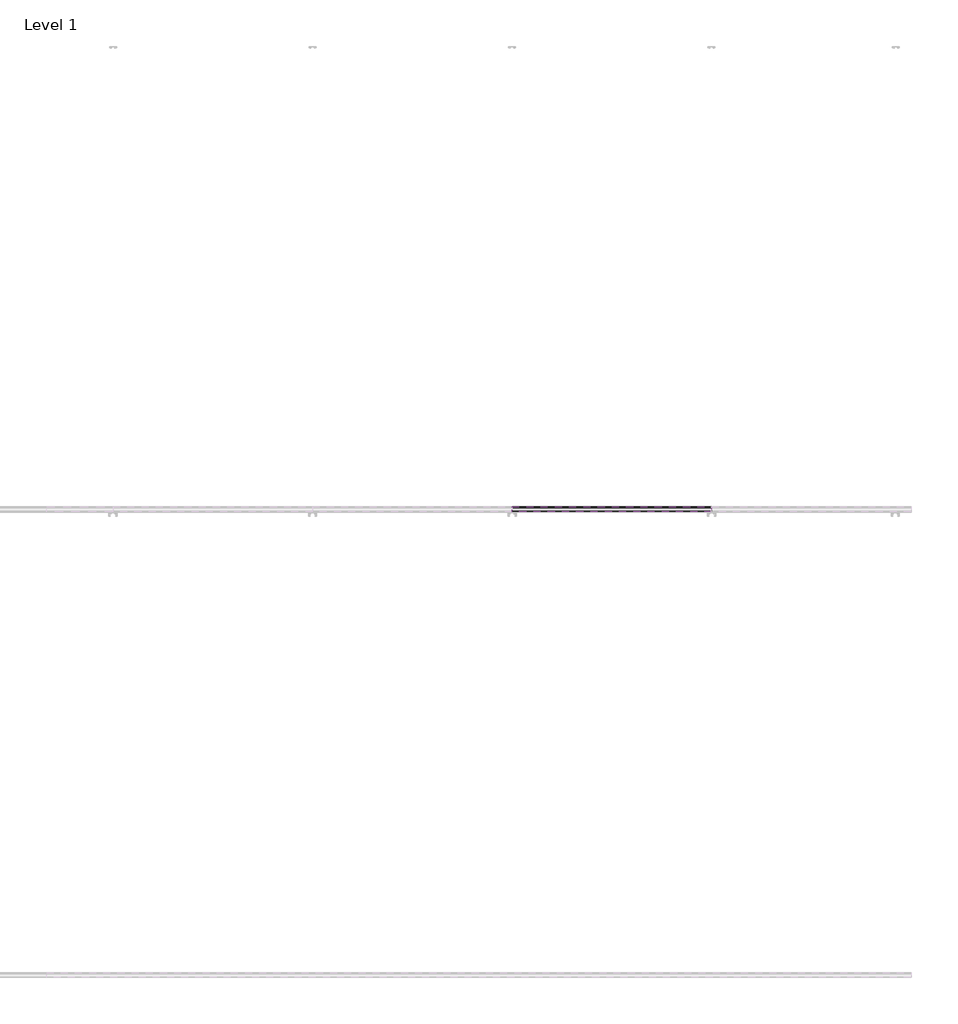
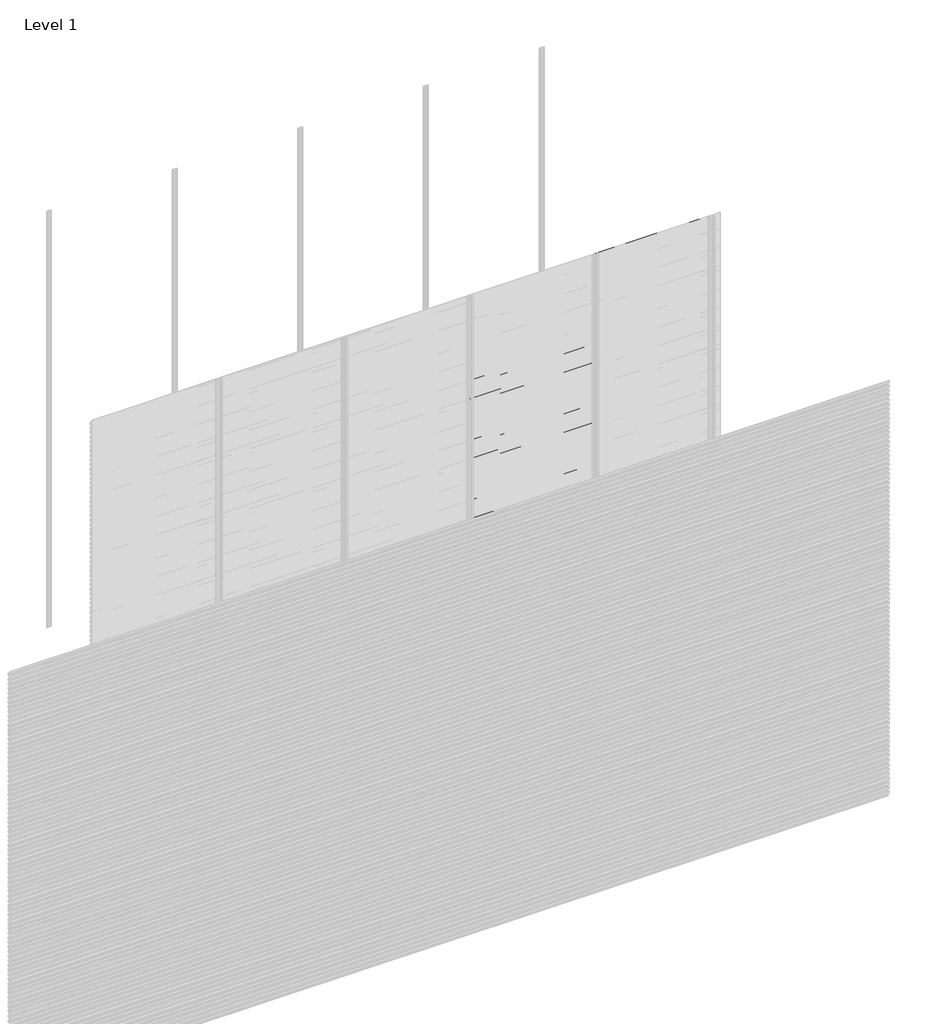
# One storey, part 86 of 96: 77 proxies.
"""IFC4 building model written with IfcOpenShell, lengths in millimetres."""

from ifc_helpers import new_model, si_unit, frame, origin, place, context, project, spatial, polyline, outline, extrude, element, save

model = new_model("IFC4")

# Units and contexts
model_context = context("Model", 3, world=origin())
ifc_project = project(units=[si_unit("LENGTHUNIT", "METRE", prefix="MILLI")], contexts=[model_context])

# Site, building, storey
site = spatial("IfcSite", under=ifc_project)
building = spatial("IfcBuilding", under=site)
storey = spatial("IfcBuildingStorey", under=building, Name="Level 1", Elevation=0.0)

# Proxies
placement = place(None, origin())
element("IfcBuildingElementProxy", 1, Name="Wall Sweeps", at=placement, inside=storey, context=model_context, shape_type="SweptSolid", body=[
    extrude(outline(polyline([(-5977.6, 2438.9655033), (-5977.6, 2424.6779188), (-5982.4114965, 2421.9), (-5982.4114965, 2423.1701706), (-5978.85, 2425.2264016), (-5978.85, 2438.2437382), (-5998.0, 2449.3000799), (-5998.0, 2464.2), (-5996.75, 2464.2), (-5996.75, 2450.0217609), (-5977.6, 2438.9655033)])), frame((4285.7142857, 0.0, 0.0), z_axis=(1.0, 0.0, 0.0), x_axis=(0.0, 1.0, 0.0)), (0.0, 0.0, 1.0), 857.1428571),
])
element("IfcBuildingElementProxy", 2, Name="Wall Sweeps", at=placement, inside=storey, context=model_context, shape_type="SweptSolid", body=[
    extrude(outline(polyline([(-5977.6, 2405.6655033), (-5977.6, 2391.3779188), (-5982.4114965, 2388.6), (-5982.4114965, 2389.8701706), (-5978.85, 2391.9264016), (-5978.85, 2404.9437382), (-5998.0, 2416.0000799), (-5998.0, 2430.9), (-5996.75, 2430.9), (-5996.75, 2416.7217609), (-5977.6, 2405.6655033)])), frame((4285.7142857, 0.0, 0.0), z_axis=(1.0, 0.0, 0.0), x_axis=(0.0, 1.0, 0.0)), (0.0, 0.0, 1.0), 857.1428571),
])
element("IfcBuildingElementProxy", 3, Name="Wall Sweeps", at=placement, inside=storey, context=model_context, shape_type="SweptSolid", body=[
    extrude(outline(polyline([(-5977.6, 2372.3655033), (-5977.6, 2358.0779188), (-5982.4114965, 2355.3), (-5982.4114965, 2356.5701706), (-5978.85, 2358.6264016), (-5978.85, 2371.6437382), (-5998.0, 2382.7000799), (-5998.0, 2397.6), (-5996.75, 2397.6), (-5996.75, 2383.4217609), (-5977.6, 2372.3655033)])), frame((4285.7142857, 0.0, 0.0), z_axis=(1.0, 0.0, 0.0), x_axis=(0.0, 1.0, 0.0)), (0.0, 0.0, 1.0), 857.1428571),
])
element("IfcBuildingElementProxy", 4, Name="Wall Sweeps", at=placement, inside=storey, context=model_context, shape_type="SweptSolid", body=[
    extrude(outline(polyline([(-5977.6, 2339.0655033), (-5977.6, 2324.7779188), (-5982.4114965, 2322.0), (-5982.4114965, 2323.2701706), (-5978.85, 2325.3264016), (-5978.85, 2338.3437382), (-5998.0, 2349.4000799), (-5998.0, 2364.3), (-5996.75, 2364.3), (-5996.75, 2350.1217609), (-5977.6, 2339.0655033)])), frame((4285.7142857, 0.0, 0.0), z_axis=(1.0, 0.0, 0.0), x_axis=(0.0, 1.0, 0.0)), (0.0, 0.0, 1.0), 857.1428571),
])
element("IfcBuildingElementProxy", 5, Name="Wall Sweeps", at=placement, inside=storey, context=model_context, shape_type="SweptSolid", body=[
    extrude(outline(polyline([(-5977.6, 2305.7655033), (-5977.6, 2291.4779188), (-5982.4114965, 2288.7), (-5982.4114965, 2289.9701706), (-5978.85, 2292.0264016), (-5978.85, 2305.0437382), (-5998.0, 2316.1000799), (-5998.0, 2331.0), (-5996.75, 2331.0), (-5996.75, 2316.8217609), (-5977.6, 2305.7655033)])), frame((4285.7142857, 0.0, 0.0), z_axis=(1.0, 0.0, 0.0), x_axis=(0.0, 1.0, 0.0)), (0.0, 0.0, 1.0), 857.1428571),
])
element("IfcBuildingElementProxy", 6, Name="Wall Sweeps", at=placement, inside=storey, context=model_context, shape_type="SweptSolid", body=[
    extrude(outline(polyline([(-5977.6, 2272.4655033), (-5977.6, 2258.1779188), (-5982.4114965, 2255.4), (-5982.4114965, 2256.6701706), (-5978.85, 2258.7264016), (-5978.85, 2271.7437382), (-5998.0, 2282.8000799), (-5998.0, 2297.7), (-5996.75, 2297.7), (-5996.75, 2283.5217609), (-5977.6, 2272.4655033)])), frame((4285.7142857, 0.0, 0.0), z_axis=(1.0, 0.0, 0.0), x_axis=(0.0, 1.0, 0.0)), (0.0, 0.0, 1.0), 857.1428571),
])
element("IfcBuildingElementProxy", 7, Name="Wall Sweeps", at=placement, inside=storey, context=model_context, shape_type="SweptSolid", body=[
    extrude(outline(polyline([(-5977.6, 2239.1655033), (-5977.6, 2224.8779188), (-5982.4114965, 2222.1), (-5982.4114965, 2223.3701706), (-5978.85, 2225.4264016), (-5978.85, 2238.4437382), (-5998.0, 2249.5000799), (-5998.0, 2264.4), (-5996.75, 2264.4), (-5996.75, 2250.2217609), (-5977.6, 2239.1655033)])), frame((4285.7142857, 0.0, 0.0), z_axis=(1.0, 0.0, 0.0), x_axis=(0.0, 1.0, 0.0)), (0.0, 0.0, 1.0), 857.1428571),
])
element("IfcBuildingElementProxy", 8, Name="Wall Sweeps", at=placement, inside=storey, context=model_context, shape_type="SweptSolid", body=[
    extrude(outline(polyline([(-5977.6, 2205.8655033), (-5977.6, 2191.5779188), (-5982.4114965, 2188.8), (-5982.4114965, 2190.0701706), (-5978.85, 2192.1264016), (-5978.85, 2205.1437382), (-5998.0, 2216.2000799), (-5998.0, 2231.1), (-5996.75, 2231.1), (-5996.75, 2216.9217609), (-5977.6, 2205.8655033)])), frame((4285.7142857, 0.0, 0.0), z_axis=(1.0, 0.0, 0.0), x_axis=(0.0, 1.0, 0.0)), (0.0, 0.0, 1.0), 857.1428571),
])
element("IfcBuildingElementProxy", 9, Name="Wall Sweeps", at=placement, inside=storey, context=model_context, shape_type="SweptSolid", body=[
    extrude(outline(polyline([(-5977.6, 2172.5655033), (-5977.6, 2158.2779188), (-5982.4114965, 2155.5), (-5982.4114965, 2156.7701706), (-5978.85, 2158.8264016), (-5978.85, 2171.8437382), (-5998.0, 2182.9000799), (-5998.0, 2197.8), (-5996.75, 2197.8), (-5996.75, 2183.6217609), (-5977.6, 2172.5655033)])), frame((4285.7142857, 0.0, 0.0), z_axis=(1.0, 0.0, 0.0), x_axis=(0.0, 1.0, 0.0)), (0.0, 0.0, 1.0), 857.1428571),
])
element("IfcBuildingElementProxy", 10, Name="Wall Sweeps", at=placement, inside=storey, context=model_context, shape_type="SweptSolid", body=[
    extrude(outline(polyline([(-5977.6, 2139.2655033), (-5977.6, 2124.9779188), (-5982.4114965, 2122.2), (-5982.4114965, 2123.4701706), (-5978.85, 2125.5264016), (-5978.85, 2138.5437382), (-5998.0, 2149.6000799), (-5998.0, 2164.5), (-5996.75, 2164.5), (-5996.75, 2150.3217609), (-5977.6, 2139.2655033)])), frame((4285.7142857, 0.0, 0.0), z_axis=(1.0, 0.0, 0.0), x_axis=(0.0, 1.0, 0.0)), (0.0, 0.0, 1.0), 857.1428571),
])
element("IfcBuildingElementProxy", 11, Name="Wall Sweeps", at=placement, inside=storey, context=model_context, shape_type="SweptSolid", body=[
    extrude(outline(polyline([(-5977.6, 2105.9655033), (-5977.6, 2091.6779188), (-5982.4114965, 2088.9), (-5982.4114965, 2090.1701706), (-5978.85, 2092.2264016), (-5978.85, 2105.2437382), (-5998.0, 2116.3000799), (-5998.0, 2131.2), (-5996.75, 2131.2), (-5996.75, 2117.0217609), (-5977.6, 2105.9655033)])), frame((4285.7142857, 0.0, 0.0), z_axis=(1.0, 0.0, 0.0), x_axis=(0.0, 1.0, 0.0)), (0.0, 0.0, 1.0), 857.1428571),
])
element("IfcBuildingElementProxy", 12, Name="Wall Sweeps", at=placement, inside=storey, context=model_context, shape_type="SweptSolid", body=[
    extrude(outline(polyline([(-5977.6, 2072.6655033), (-5977.6, 2058.3779188), (-5982.4114965, 2055.6), (-5982.4114965, 2056.8701706), (-5978.85, 2058.9264016), (-5978.85, 2071.9437382), (-5998.0, 2083.0000799), (-5998.0, 2097.9), (-5996.75, 2097.9), (-5996.75, 2083.7217609), (-5977.6, 2072.6655033)])), frame((4285.7142857, 0.0, 0.0), z_axis=(1.0, 0.0, 0.0), x_axis=(0.0, 1.0, 0.0)), (0.0, 0.0, 1.0), 857.1428571),
])
element("IfcBuildingElementProxy", 13, Name="Wall Sweeps", at=placement, inside=storey, context=model_context, shape_type="SweptSolid", body=[
    extrude(outline(polyline([(-5977.6, 2039.3655033), (-5977.6, 2025.0779188), (-5982.4114965, 2022.3), (-5982.4114965, 2023.5701706), (-5978.85, 2025.6264016), (-5978.85, 2038.6437382), (-5998.0, 2049.7000799), (-5998.0, 2064.6), (-5996.75, 2064.6), (-5996.75, 2050.4217609), (-5977.6, 2039.3655033)])), frame((4285.7142857, 0.0, 0.0), z_axis=(1.0, 0.0, 0.0), x_axis=(0.0, 1.0, 0.0)), (0.0, 0.0, 1.0), 857.1428571),
])
element("IfcBuildingElementProxy", 14, Name="Wall Sweeps", at=placement, inside=storey, context=model_context, shape_type="SweptSolid", body=[
    extrude(outline(polyline([(-5977.6, 2006.0655033), (-5977.6, 1991.7779188), (-5982.4114965, 1989.0), (-5982.4114965, 1990.2701706), (-5978.85, 1992.3264016), (-5978.85, 2005.3437382), (-5998.0, 2016.4000799), (-5998.0, 2031.3), (-5996.75, 2031.3), (-5996.75, 2017.1217609), (-5977.6, 2006.0655033)])), frame((4285.7142857, 0.0, 0.0), z_axis=(1.0, 0.0, 0.0), x_axis=(0.0, 1.0, 0.0)), (0.0, 0.0, 1.0), 857.1428571),
])
element("IfcBuildingElementProxy", 15, Name="Wall Sweeps", at=placement, inside=storey, context=model_context, shape_type="SweptSolid", body=[
    extrude(outline(polyline([(-5977.6, 1972.7655033), (-5977.6, 1958.4779188), (-5982.4114965, 1955.7), (-5982.4114965, 1956.9701706), (-5978.85, 1959.0264016), (-5978.85, 1972.0437382), (-5998.0, 1983.1000799), (-5998.0, 1998.0), (-5996.75, 1998.0), (-5996.75, 1983.8217609), (-5977.6, 1972.7655033)])), frame((4285.7142857, 0.0, 0.0), z_axis=(1.0, 0.0, 0.0), x_axis=(0.0, 1.0, 0.0)), (0.0, 0.0, 1.0), 857.1428571),
])
element("IfcBuildingElementProxy", 16, Name="Wall Sweeps", at=placement, inside=storey, context=model_context, shape_type="SweptSolid", body=[
    extrude(outline(polyline([(-5977.6, 1939.4655033), (-5977.6, 1925.1779188), (-5982.4114965, 1922.4), (-5982.4114965, 1923.6701706), (-5978.85, 1925.7264016), (-5978.85, 1938.7437382), (-5998.0, 1949.8000799), (-5998.0, 1964.7), (-5996.75, 1964.7), (-5996.75, 1950.5217609), (-5977.6, 1939.4655033)])), frame((4285.7142857, 0.0, 0.0), z_axis=(1.0, 0.0, 0.0), x_axis=(0.0, 1.0, 0.0)), (0.0, 0.0, 1.0), 857.1428571),
])
element("IfcBuildingElementProxy", 17, Name="Wall Sweeps", at=placement, inside=storey, context=model_context, shape_type="SweptSolid", body=[
    extrude(outline(polyline([(-5977.6, 1906.1655033), (-5977.6, 1891.8779188), (-5982.4114965, 1889.1), (-5982.4114965, 1890.3701706), (-5978.85, 1892.4264016), (-5978.85, 1905.4437382), (-5998.0, 1916.5000799), (-5998.0, 1931.4), (-5996.75, 1931.4), (-5996.75, 1917.2217609), (-5977.6, 1906.1655033)])), frame((4285.7142857, 0.0, 0.0), z_axis=(1.0, 0.0, 0.0), x_axis=(0.0, 1.0, 0.0)), (0.0, 0.0, 1.0), 857.1428571),
])
element("IfcBuildingElementProxy", 18, Name="Wall Sweeps", at=placement, inside=storey, context=model_context, shape_type="SweptSolid", body=[
    extrude(outline(polyline([(-5977.6, 1872.8655033), (-5977.6, 1858.5779188), (-5982.4114965, 1855.8), (-5982.4114965, 1857.0701706), (-5978.85, 1859.1264016), (-5978.85, 1872.1437382), (-5998.0, 1883.2000799), (-5998.0, 1898.1), (-5996.75, 1898.1), (-5996.75, 1883.9217609), (-5977.6, 1872.8655033)])), frame((4285.7142857, 0.0, 0.0), z_axis=(1.0, 0.0, 0.0), x_axis=(0.0, 1.0, 0.0)), (0.0, 0.0, 1.0), 857.1428571),
])
element("IfcBuildingElementProxy", 19, Name="Wall Sweeps", at=placement, inside=storey, context=model_context, shape_type="SweptSolid", body=[
    extrude(outline(polyline([(-5977.6, 1839.5655033), (-5977.6, 1825.2779188), (-5982.4114965, 1822.5), (-5982.4114965, 1823.7701706), (-5978.85, 1825.8264016), (-5978.85, 1838.8437382), (-5998.0, 1849.9000799), (-5998.0, 1864.8), (-5996.75, 1864.8), (-5996.75, 1850.6217609), (-5977.6, 1839.5655033)])), frame((4285.7142857, 0.0, 0.0), z_axis=(1.0, 0.0, 0.0), x_axis=(0.0, 1.0, 0.0)), (0.0, 0.0, 1.0), 857.1428571),
])
element("IfcBuildingElementProxy", 20, Name="Wall Sweeps", at=placement, inside=storey, context=model_context, shape_type="SweptSolid", body=[
    extrude(outline(polyline([(-5977.6, 1806.2655033), (-5977.6, 1791.9779188), (-5982.4114965, 1789.2), (-5982.4114965, 1790.4701706), (-5978.85, 1792.5264016), (-5978.85, 1805.5437382), (-5998.0, 1816.6000799), (-5998.0, 1831.5), (-5996.75, 1831.5), (-5996.75, 1817.3217609), (-5977.6, 1806.2655033)])), frame((4285.7142857, 0.0, 0.0), z_axis=(1.0, 0.0, 0.0), x_axis=(0.0, 1.0, 0.0)), (0.0, 0.0, 1.0), 857.1428571),
])
element("IfcBuildingElementProxy", 21, Name="Wall Sweeps", at=placement, inside=storey, context=model_context, shape_type="SweptSolid", body=[
    extrude(outline(polyline([(-5977.6, 1772.9655033), (-5977.6, 1758.6779188), (-5982.4114965, 1755.9), (-5982.4114965, 1757.1701706), (-5978.85, 1759.2264016), (-5978.85, 1772.2437382), (-5998.0, 1783.3000799), (-5998.0, 1798.2), (-5996.75, 1798.2), (-5996.75, 1784.0217609), (-5977.6, 1772.9655033)])), frame((4285.7142857, 0.0, 0.0), z_axis=(1.0, 0.0, 0.0), x_axis=(0.0, 1.0, 0.0)), (0.0, 0.0, 1.0), 857.1428571),
])
element("IfcBuildingElementProxy", 22, Name="Wall Sweeps", at=placement, inside=storey, context=model_context, shape_type="SweptSolid", body=[
    extrude(outline(polyline([(-5977.6, 1739.6655033), (-5977.6, 1725.3779188), (-5982.4114965, 1722.6), (-5982.4114965, 1723.8701706), (-5978.85, 1725.9264016), (-5978.85, 1738.9437382), (-5998.0, 1750.0000799), (-5998.0, 1764.9), (-5996.75, 1764.9), (-5996.75, 1750.7217609), (-5977.6, 1739.6655033)])), frame((4285.7142857, 0.0, 0.0), z_axis=(1.0, 0.0, 0.0), x_axis=(0.0, 1.0, 0.0)), (0.0, 0.0, 1.0), 857.1428571),
])
element("IfcBuildingElementProxy", 23, Name="Wall Sweeps", at=placement, inside=storey, context=model_context, shape_type="SweptSolid", body=[
    extrude(outline(polyline([(-5977.6, 1706.3655033), (-5977.6, 1692.0779188), (-5982.4114965, 1689.3), (-5982.4114965, 1690.5701706), (-5978.85, 1692.6264016), (-5978.85, 1705.6437382), (-5998.0, 1716.7000799), (-5998.0, 1731.6), (-5996.75, 1731.6), (-5996.75, 1717.4217609), (-5977.6, 1706.3655033)])), frame((4285.7142857, 0.0, 0.0), z_axis=(1.0, 0.0, 0.0), x_axis=(0.0, 1.0, 0.0)), (0.0, 0.0, 1.0), 857.1428571),
])
element("IfcBuildingElementProxy", 24, Name="Wall Sweeps", at=placement, inside=storey, context=model_context, shape_type="SweptSolid", body=[
    extrude(outline(polyline([(-5977.6, 1673.0655033), (-5977.6, 1658.7779188), (-5982.4114965, 1656.0), (-5982.4114965, 1657.2701706), (-5978.85, 1659.3264016), (-5978.85, 1672.3437382), (-5998.0, 1683.4000799), (-5998.0, 1698.3), (-5996.75, 1698.3), (-5996.75, 1684.1217609), (-5977.6, 1673.0655033)])), frame((4285.7142857, 0.0, 0.0), z_axis=(1.0, 0.0, 0.0), x_axis=(0.0, 1.0, 0.0)), (0.0, 0.0, 1.0), 857.1428571),
])
element("IfcBuildingElementProxy", 25, Name="Wall Sweeps", at=placement, inside=storey, context=model_context, shape_type="SweptSolid", body=[
    extrude(outline(polyline([(-5977.6, 1639.7655033), (-5977.6, 1625.4779188), (-5982.4114965, 1622.7), (-5982.4114965, 1623.9701706), (-5978.85, 1626.0264016), (-5978.85, 1639.0437382), (-5998.0, 1650.1000799), (-5998.0, 1665.0), (-5996.75, 1665.0), (-5996.75, 1650.8217609), (-5977.6, 1639.7655033)])), frame((4285.7142857, 0.0, 0.0), z_axis=(1.0, 0.0, 0.0), x_axis=(0.0, 1.0, 0.0)), (0.0, 0.0, 1.0), 857.1428571),
])
element("IfcBuildingElementProxy", 26, Name="Wall Sweeps", at=placement, inside=storey, context=model_context, shape_type="SweptSolid", body=[
    extrude(outline(polyline([(-5977.6, 1606.4655033), (-5977.6, 1592.1779188), (-5982.4114965, 1589.4), (-5982.4114965, 1590.6701706), (-5978.85, 1592.7264016), (-5978.85, 1605.7437382), (-5998.0, 1616.8000799), (-5998.0, 1631.7), (-5996.75, 1631.7), (-5996.75, 1617.5217609), (-5977.6, 1606.4655033)])), frame((4285.7142857, 0.0, 0.0), z_axis=(1.0, 0.0, 0.0), x_axis=(0.0, 1.0, 0.0)), (0.0, 0.0, 1.0), 857.1428571),
])
element("IfcBuildingElementProxy", 27, Name="Wall Sweeps", at=placement, inside=storey, context=model_context, shape_type="SweptSolid", body=[
    extrude(outline(polyline([(-5977.6, 1573.1655033), (-5977.6, 1558.8779188), (-5982.4114965, 1556.1), (-5982.4114965, 1557.3701706), (-5978.85, 1559.4264016), (-5978.85, 1572.4437382), (-5998.0, 1583.5000799), (-5998.0, 1598.4), (-5996.75, 1598.4), (-5996.75, 1584.2217609), (-5977.6, 1573.1655033)])), frame((4285.7142857, 0.0, 0.0), z_axis=(1.0, 0.0, 0.0), x_axis=(0.0, 1.0, 0.0)), (0.0, 0.0, 1.0), 857.1428571),
])
element("IfcBuildingElementProxy", 28, Name="Wall Sweeps", at=placement, inside=storey, context=model_context, shape_type="SweptSolid", body=[
    extrude(outline(polyline([(-5977.6, 1539.8655033), (-5977.6, 1525.5779188), (-5982.4114965, 1522.8), (-5982.4114965, 1524.0701706), (-5978.85, 1526.1264016), (-5978.85, 1539.1437382), (-5998.0, 1550.2000799), (-5998.0, 1565.1), (-5996.75, 1565.1), (-5996.75, 1550.9217609), (-5977.6, 1539.8655033)])), frame((4285.7142857, 0.0, 0.0), z_axis=(1.0, 0.0, 0.0), x_axis=(0.0, 1.0, 0.0)), (0.0, 0.0, 1.0), 857.1428571),
])
element("IfcBuildingElementProxy", 29, Name="Wall Sweeps", at=placement, inside=storey, context=model_context, shape_type="SweptSolid", body=[
    extrude(outline(polyline([(-5977.6, 1506.5655033), (-5977.6, 1492.2779188), (-5982.4114965, 1489.5), (-5982.4114965, 1490.7701706), (-5978.85, 1492.8264016), (-5978.85, 1505.8437382), (-5998.0, 1516.9000799), (-5998.0, 1531.8), (-5996.75, 1531.8), (-5996.75, 1517.6217609), (-5977.6, 1506.5655033)])), frame((4285.7142857, 0.0, 0.0), z_axis=(1.0, 0.0, 0.0), x_axis=(0.0, 1.0, 0.0)), (0.0, 0.0, 1.0), 857.1428571),
])
element("IfcBuildingElementProxy", 30, Name="Wall Sweeps", at=placement, inside=storey, context=model_context, shape_type="SweptSolid", body=[
    extrude(outline(polyline([(-5977.6, 1473.2655033), (-5977.6, 1458.9779188), (-5982.4114965, 1456.2), (-5982.4114965, 1457.4701706), (-5978.85, 1459.5264016), (-5978.85, 1472.5437382), (-5998.0, 1483.6000799), (-5998.0, 1498.5), (-5996.75, 1498.5), (-5996.75, 1484.3217609), (-5977.6, 1473.2655033)])), frame((4285.7142857, 0.0, 0.0), z_axis=(1.0, 0.0, 0.0), x_axis=(0.0, 1.0, 0.0)), (0.0, 0.0, 1.0), 857.1428571),
])
element("IfcBuildingElementProxy", 31, Name="Wall Sweeps", at=placement, inside=storey, context=model_context, shape_type="SweptSolid", body=[
    extrude(outline(polyline([(-5977.6, 1439.9655033), (-5977.6, 1425.6779188), (-5982.4114965, 1422.9), (-5982.4114965, 1424.1701706), (-5978.85, 1426.2264016), (-5978.85, 1439.2437382), (-5998.0, 1450.3000799), (-5998.0, 1465.2), (-5996.75, 1465.2), (-5996.75, 1451.0217609), (-5977.6, 1439.9655033)])), frame((4285.7142857, 0.0, 0.0), z_axis=(1.0, 0.0, 0.0), x_axis=(0.0, 1.0, 0.0)), (0.0, 0.0, 1.0), 857.1428571),
])
element("IfcBuildingElementProxy", 32, Name="Wall Sweeps", at=placement, inside=storey, context=model_context, shape_type="SweptSolid", body=[
    extrude(outline(polyline([(-5977.6, 1406.6655033), (-5977.6, 1392.3779188), (-5982.4114965, 1389.6), (-5982.4114965, 1390.8701706), (-5978.85, 1392.9264016), (-5978.85, 1405.9437382), (-5998.0, 1417.0000799), (-5998.0, 1431.9), (-5996.75, 1431.9), (-5996.75, 1417.7217609), (-5977.6, 1406.6655033)])), frame((4285.7142857, 0.0, 0.0), z_axis=(1.0, 0.0, 0.0), x_axis=(0.0, 1.0, 0.0)), (0.0, 0.0, 1.0), 857.1428571),
])
element("IfcBuildingElementProxy", 33, Name="Wall Sweeps", at=placement, inside=storey, context=model_context, shape_type="SweptSolid", body=[
    extrude(outline(polyline([(-5977.6, 1373.3655033), (-5977.6, 1359.0779188), (-5982.4114965, 1356.3), (-5982.4114965, 1357.5701706), (-5978.85, 1359.6264016), (-5978.85, 1372.6437382), (-5998.0, 1383.7000799), (-5998.0, 1398.6), (-5996.75, 1398.6), (-5996.75, 1384.4217609), (-5977.6, 1373.3655033)])), frame((4285.7142857, 0.0, 0.0), z_axis=(1.0, 0.0, 0.0), x_axis=(0.0, 1.0, 0.0)), (0.0, 0.0, 1.0), 857.1428571),
])
element("IfcBuildingElementProxy", 34, Name="Wall Sweeps", at=placement, inside=storey, context=model_context, shape_type="SweptSolid", body=[
    extrude(outline(polyline([(-5977.6, 1340.0655033), (-5977.6, 1325.7779188), (-5982.4114965, 1323.0), (-5982.4114965, 1324.2701706), (-5978.85, 1326.3264016), (-5978.85, 1339.3437382), (-5998.0, 1350.4000799), (-5998.0, 1365.3), (-5996.75, 1365.3), (-5996.75, 1351.1217609), (-5977.6, 1340.0655033)])), frame((4285.7142857, 0.0, 0.0), z_axis=(1.0, 0.0, 0.0), x_axis=(0.0, 1.0, 0.0)), (0.0, 0.0, 1.0), 857.1428571),
])
element("IfcBuildingElementProxy", 35, Name="Wall Sweeps", at=placement, inside=storey, context=model_context, shape_type="SweptSolid", body=[
    extrude(outline(polyline([(-5977.6, 1306.7655033), (-5977.6, 1292.4779188), (-5982.4114965, 1289.7), (-5982.4114965, 1290.9701706), (-5978.85, 1293.0264016), (-5978.85, 1306.0437382), (-5998.0, 1317.1000799), (-5998.0, 1332.0), (-5996.75, 1332.0), (-5996.75, 1317.8217609), (-5977.6, 1306.7655033)])), frame((4285.7142857, 0.0, 0.0), z_axis=(1.0, 0.0, 0.0), x_axis=(0.0, 1.0, 0.0)), (0.0, 0.0, 1.0), 857.1428571),
])
element("IfcBuildingElementProxy", 36, Name="Wall Sweeps", at=placement, inside=storey, context=model_context, shape_type="SweptSolid", body=[
    extrude(outline(polyline([(-5977.6, 1273.4655033), (-5977.6, 1259.1779188), (-5982.4114965, 1256.4), (-5982.4114965, 1257.6701706), (-5978.85, 1259.7264016), (-5978.85, 1272.7437382), (-5998.0, 1283.8000799), (-5998.0, 1298.7), (-5996.75, 1298.7), (-5996.75, 1284.5217609), (-5977.6, 1273.4655033)])), frame((4285.7142857, 0.0, 0.0), z_axis=(1.0, 0.0, 0.0), x_axis=(0.0, 1.0, 0.0)), (0.0, 0.0, 1.0), 857.1428571),
])
element("IfcBuildingElementProxy", 37, Name="Wall Sweeps", at=placement, inside=storey, context=model_context, shape_type="SweptSolid", body=[
    extrude(outline(polyline([(-5977.6, 1240.1655033), (-5977.6, 1225.8779188), (-5982.4114965, 1223.1), (-5982.4114965, 1224.3701706), (-5978.85, 1226.4264016), (-5978.85, 1239.4437382), (-5998.0, 1250.5000799), (-5998.0, 1265.4), (-5996.75, 1265.4), (-5996.75, 1251.2217609), (-5977.6, 1240.1655033)])), frame((4285.7142857, 0.0, 0.0), z_axis=(1.0, 0.0, 0.0), x_axis=(0.0, 1.0, 0.0)), (0.0, 0.0, 1.0), 857.1428571),
])
element("IfcBuildingElementProxy", 38, Name="Wall Sweeps", at=placement, inside=storey, context=model_context, shape_type="SweptSolid", body=[
    extrude(outline(polyline([(-5977.6, 1206.8655033), (-5977.6, 1192.5779188), (-5982.4114965, 1189.8), (-5982.4114965, 1191.0701706), (-5978.85, 1193.1264016), (-5978.85, 1206.1437382), (-5998.0, 1217.2000799), (-5998.0, 1232.1), (-5996.75, 1232.1), (-5996.75, 1217.9217609), (-5977.6, 1206.8655033)])), frame((4285.7142857, 0.0, 0.0), z_axis=(1.0, 0.0, 0.0), x_axis=(0.0, 1.0, 0.0)), (0.0, 0.0, 1.0), 857.1428571),
])
element("IfcBuildingElementProxy", 39, Name="Wall Sweeps", at=placement, inside=storey, context=model_context, shape_type="SweptSolid", body=[
    extrude(outline(polyline([(-5977.6, 1173.5655033), (-5977.6, 1159.2779188), (-5982.4114965, 1156.5), (-5982.4114965, 1157.7701706), (-5978.85, 1159.8264016), (-5978.85, 1172.8437382), (-5998.0, 1183.9000799), (-5998.0, 1198.8), (-5996.75, 1198.8), (-5996.75, 1184.6217609), (-5977.6, 1173.5655033)])), frame((4285.7142857, 0.0, 0.0), z_axis=(1.0, 0.0, 0.0), x_axis=(0.0, 1.0, 0.0)), (0.0, 0.0, 1.0), 857.1428571),
])
element("IfcBuildingElementProxy", 40, Name="Wall Sweeps", at=placement, inside=storey, context=model_context, shape_type="SweptSolid", body=[
    extrude(outline(polyline([(-5977.6, 1140.2655033), (-5977.6, 1125.9779188), (-5982.4114965, 1123.2), (-5982.4114965, 1124.4701706), (-5978.85, 1126.5264016), (-5978.85, 1139.5437382), (-5998.0, 1150.6000799), (-5998.0, 1165.5), (-5996.75, 1165.5), (-5996.75, 1151.3217609), (-5977.6, 1140.2655033)])), frame((4285.7142857, 0.0, 0.0), z_axis=(1.0, 0.0, 0.0), x_axis=(0.0, 1.0, 0.0)), (0.0, 0.0, 1.0), 857.1428571),
])
element("IfcBuildingElementProxy", 41, Name="Wall Sweeps", at=placement, inside=storey, context=model_context, shape_type="SweptSolid", body=[
    extrude(outline(polyline([(-5977.6, 1106.9655033), (-5977.6, 1092.6779188), (-5982.4114965, 1089.9), (-5982.4114965, 1091.1701706), (-5978.85, 1093.2264016), (-5978.85, 1106.2437382), (-5998.0, 1117.3000799), (-5998.0, 1132.2), (-5996.75, 1132.2), (-5996.75, 1118.0217609), (-5977.6, 1106.9655033)])), frame((4285.7142857, 0.0, 0.0), z_axis=(1.0, 0.0, 0.0), x_axis=(0.0, 1.0, 0.0)), (0.0, 0.0, 1.0), 857.1428571),
])
element("IfcBuildingElementProxy", 42, Name="Wall Sweeps", at=placement, inside=storey, context=model_context, shape_type="SweptSolid", body=[
    extrude(outline(polyline([(-5977.6, 1073.6655033), (-5977.6, 1059.3779188), (-5982.4114965, 1056.6), (-5982.4114965, 1057.8701706), (-5978.85, 1059.9264016), (-5978.85, 1072.9437382), (-5998.0, 1084.0000799), (-5998.0, 1098.9), (-5996.75, 1098.9), (-5996.75, 1084.7217609), (-5977.6, 1073.6655033)])), frame((4285.7142857, 0.0, 0.0), z_axis=(1.0, 0.0, 0.0), x_axis=(0.0, 1.0, 0.0)), (0.0, 0.0, 1.0), 857.1428571),
])
element("IfcBuildingElementProxy", 43, Name="Wall Sweeps", at=placement, inside=storey, context=model_context, shape_type="SweptSolid", body=[
    extrude(outline(polyline([(-5977.6, 1040.3655033), (-5977.6, 1026.0779188), (-5982.4114965, 1023.3), (-5982.4114965, 1024.5701706), (-5978.85, 1026.6264016), (-5978.85, 1039.6437382), (-5998.0, 1050.7000799), (-5998.0, 1065.6), (-5996.75, 1065.6), (-5996.75, 1051.4217609), (-5977.6, 1040.3655033)])), frame((4285.7142857, 0.0, 0.0), z_axis=(1.0, 0.0, 0.0), x_axis=(0.0, 1.0, 0.0)), (0.0, 0.0, 1.0), 857.1428571),
])
element("IfcBuildingElementProxy", 44, Name="Wall Sweeps", at=placement, inside=storey, context=model_context, shape_type="SweptSolid", body=[
    extrude(outline(polyline([(-5977.6, 1007.0655033), (-5977.6, 992.7779188), (-5982.4114965, 990.0), (-5982.4114965, 991.2701706), (-5978.85, 993.3264016), (-5978.85, 1006.3437382), (-5998.0, 1017.4000799), (-5998.0, 1032.3), (-5996.75, 1032.3), (-5996.75, 1018.1217609), (-5977.6, 1007.0655033)])), frame((4285.7142857, 0.0, 0.0), z_axis=(1.0, 0.0, 0.0), x_axis=(0.0, 1.0, 0.0)), (0.0, 0.0, 1.0), 857.1428571),
])
element("IfcBuildingElementProxy", 45, Name="Wall Sweeps", at=placement, inside=storey, context=model_context, shape_type="SweptSolid", body=[
    extrude(outline(polyline([(-5977.6, 973.7655033), (-5977.6, 959.4779188), (-5982.4114965, 956.7), (-5982.4114965, 957.9701706), (-5978.85, 960.0264016), (-5978.85, 973.0437382), (-5998.0, 984.1000799), (-5998.0, 999.0), (-5996.75, 999.0), (-5996.75, 984.8217609), (-5977.6, 973.7655033)])), frame((4285.7142857, 0.0, 0.0), z_axis=(1.0, 0.0, 0.0), x_axis=(0.0, 1.0, 0.0)), (0.0, 0.0, 1.0), 857.1428571),
])
element("IfcBuildingElementProxy", 46, Name="Wall Sweeps", at=placement, inside=storey, context=model_context, shape_type="SweptSolid", body=[
    extrude(outline(polyline([(-5977.6, 940.4655033), (-5977.6, 926.1779188), (-5982.4114965, 923.4), (-5982.4114965, 924.6701706), (-5978.85, 926.7264016), (-5978.85, 939.7437382), (-5998.0, 950.8000799), (-5998.0, 965.7), (-5996.75, 965.7), (-5996.75, 951.5217609), (-5977.6, 940.4655033)])), frame((4285.7142857, 0.0, 0.0), z_axis=(1.0, 0.0, 0.0), x_axis=(0.0, 1.0, 0.0)), (0.0, 0.0, 1.0), 857.1428571),
])
element("IfcBuildingElementProxy", 47, Name="Wall Sweeps", at=placement, inside=storey, context=model_context, shape_type="SweptSolid", body=[
    extrude(outline(polyline([(-5977.6, 907.1655033), (-5977.6, 892.8779188), (-5982.4114965, 890.1), (-5982.4114965, 891.3701706), (-5978.85, 893.4264016), (-5978.85, 906.4437382), (-5998.0, 917.5000799), (-5998.0, 932.4), (-5996.75, 932.4), (-5996.75, 918.2217609), (-5977.6, 907.1655033)])), frame((4285.7142857, 0.0, 0.0), z_axis=(1.0, 0.0, 0.0), x_axis=(0.0, 1.0, 0.0)), (0.0, 0.0, 1.0), 857.1428571),
])
element("IfcBuildingElementProxy", 48, Name="Wall Sweeps", at=placement, inside=storey, context=model_context, shape_type="SweptSolid", body=[
    extrude(outline(polyline([(-5977.6, 873.8655033), (-5977.6, 859.5779188), (-5982.4114965, 856.8), (-5982.4114965, 858.0701706), (-5978.85, 860.1264016), (-5978.85, 873.1437382), (-5998.0, 884.2000799), (-5998.0, 899.1), (-5996.75, 899.1), (-5996.75, 884.9217609), (-5977.6, 873.8655033)])), frame((4285.7142857, 0.0, 0.0), z_axis=(1.0, 0.0, 0.0), x_axis=(0.0, 1.0, 0.0)), (0.0, 0.0, 1.0), 857.1428571),
])
element("IfcBuildingElementProxy", 49, Name="Wall Sweeps", at=placement, inside=storey, context=model_context, shape_type="SweptSolid", body=[
    extrude(outline(polyline([(-5977.6, 840.5655033), (-5977.6, 826.2779188), (-5982.4114965, 823.5), (-5982.4114965, 824.7701706), (-5978.85, 826.8264016), (-5978.85, 839.8437382), (-5998.0, 850.9000799), (-5998.0, 865.8), (-5996.75, 865.8), (-5996.75, 851.6217609), (-5977.6, 840.5655033)])), frame((4285.7142857, 0.0, 0.0), z_axis=(1.0, 0.0, 0.0), x_axis=(0.0, 1.0, 0.0)), (0.0, 0.0, 1.0), 857.1428571),
])
element("IfcBuildingElementProxy", 50, Name="Wall Sweeps", at=placement, inside=storey, context=model_context, shape_type="SweptSolid", body=[
    extrude(outline(polyline([(-5977.6, 807.2655033), (-5977.6, 792.9779188), (-5982.4114965, 790.2), (-5982.4114965, 791.4701706), (-5978.85, 793.5264016), (-5978.85, 806.5437382), (-5998.0, 817.6000799), (-5998.0, 832.5), (-5996.75, 832.5), (-5996.75, 818.3217609), (-5977.6, 807.2655033)])), frame((4285.7142857, 0.0, 0.0), z_axis=(1.0, 0.0, 0.0), x_axis=(0.0, 1.0, 0.0)), (0.0, 0.0, 1.0), 857.1428571),
])
element("IfcBuildingElementProxy", 51, Name="Wall Sweeps", at=placement, inside=storey, context=model_context, shape_type="SweptSolid", body=[
    extrude(outline(polyline([(-5977.6, 773.9655033), (-5977.6, 759.6779188), (-5982.4114965, 756.9), (-5982.4114965, 758.1701706), (-5978.85, 760.2264016), (-5978.85, 773.2437382), (-5998.0, 784.3000799), (-5998.0, 799.2), (-5996.75, 799.2), (-5996.75, 785.0217609), (-5977.6, 773.9655033)])), frame((4285.7142857, 0.0, 0.0), z_axis=(1.0, 0.0, 0.0), x_axis=(0.0, 1.0, 0.0)), (0.0, 0.0, 1.0), 857.1428571),
])
element("IfcBuildingElementProxy", 52, Name="Wall Sweeps", at=placement, inside=storey, context=model_context, shape_type="SweptSolid", body=[
    extrude(outline(polyline([(-5977.6, 740.6655033), (-5977.6, 726.3779188), (-5982.4114965, 723.6), (-5982.4114965, 724.8701706), (-5978.85, 726.9264016), (-5978.85, 739.9437382), (-5998.0, 751.0000799), (-5998.0, 765.9), (-5996.75, 765.9), (-5996.75, 751.7217609), (-5977.6, 740.6655033)])), frame((4285.7142857, 0.0, 0.0), z_axis=(1.0, 0.0, 0.0), x_axis=(0.0, 1.0, 0.0)), (0.0, 0.0, 1.0), 857.1428571),
])
element("IfcBuildingElementProxy", 53, Name="Wall Sweeps", at=placement, inside=storey, context=model_context, shape_type="SweptSolid", body=[
    extrude(outline(polyline([(-5977.6, 707.3655033), (-5977.6, 693.0779188), (-5982.4114965, 690.3), (-5982.4114965, 691.5701706), (-5978.85, 693.6264016), (-5978.85, 706.6437382), (-5998.0, 717.7000799), (-5998.0, 732.6), (-5996.75, 732.6), (-5996.75, 718.4217609), (-5977.6, 707.3655033)])), frame((4285.7142857, 0.0, 0.0), z_axis=(1.0, 0.0, 0.0), x_axis=(0.0, 1.0, 0.0)), (0.0, 0.0, 1.0), 857.1428571),
])
element("IfcBuildingElementProxy", 54, Name="Wall Sweeps", at=placement, inside=storey, context=model_context, shape_type="SweptSolid", body=[
    extrude(outline(polyline([(-5977.6, 674.0655033), (-5977.6, 659.7779188), (-5982.4114965, 657.0), (-5982.4114965, 658.2701706), (-5978.85, 660.3264016), (-5978.85, 673.3437382), (-5998.0, 684.4000799), (-5998.0, 699.3), (-5996.75, 699.3), (-5996.75, 685.1217609), (-5977.6, 674.0655033)])), frame((4285.7142857, 0.0, 0.0), z_axis=(1.0, 0.0, 0.0), x_axis=(0.0, 1.0, 0.0)), (0.0, 0.0, 1.0), 857.1428571),
])
element("IfcBuildingElementProxy", 55, Name="Wall Sweeps", at=placement, inside=storey, context=model_context, shape_type="SweptSolid", body=[
    extrude(outline(polyline([(-5977.6, 640.7655033), (-5977.6, 626.4779188), (-5982.4114965, 623.7), (-5982.4114965, 624.9701706), (-5978.85, 627.0264016), (-5978.85, 640.0437382), (-5998.0, 651.1000799), (-5998.0, 666.0), (-5996.75, 666.0), (-5996.75, 651.8217609), (-5977.6, 640.7655033)])), frame((4285.7142857, 0.0, 0.0), z_axis=(1.0, 0.0, 0.0), x_axis=(0.0, 1.0, 0.0)), (0.0, 0.0, 1.0), 857.1428571),
])
element("IfcBuildingElementProxy", 56, Name="Wall Sweeps", at=placement, inside=storey, context=model_context, shape_type="SweptSolid", body=[
    extrude(outline(polyline([(-5977.6, 607.4655033), (-5977.6, 593.1779188), (-5982.4114965, 590.4), (-5982.4114965, 591.6701706), (-5978.85, 593.7264016), (-5978.85, 606.7437382), (-5998.0, 617.8000799), (-5998.0, 632.7), (-5996.75, 632.7), (-5996.75, 618.5217609), (-5977.6, 607.4655033)])), frame((4285.7142857, 0.0, 0.0), z_axis=(1.0, 0.0, 0.0), x_axis=(0.0, 1.0, 0.0)), (0.0, 0.0, 1.0), 857.1428571),
])
element("IfcBuildingElementProxy", 57, Name="Wall Sweeps", at=placement, inside=storey, context=model_context, shape_type="SweptSolid", body=[
    extrude(outline(polyline([(-5977.6, 574.1655033), (-5977.6, 559.8779188), (-5982.4114965, 557.1), (-5982.4114965, 558.3701706), (-5978.85, 560.4264016), (-5978.85, 573.4437382), (-5998.0, 584.5000799), (-5998.0, 599.4), (-5996.75, 599.4), (-5996.75, 585.2217609), (-5977.6, 574.1655033)])), frame((4285.7142857, 0.0, 0.0), z_axis=(1.0, 0.0, 0.0), x_axis=(0.0, 1.0, 0.0)), (0.0, 0.0, 1.0), 857.1428571),
])
element("IfcBuildingElementProxy", 58, Name="Wall Sweeps", at=placement, inside=storey, context=model_context, shape_type="SweptSolid", body=[
    extrude(outline(polyline([(-5977.6, 540.8655033), (-5977.6, 526.5779188), (-5982.4114965, 523.8), (-5982.4114965, 525.0701706), (-5978.85, 527.1264016), (-5978.85, 540.1437382), (-5998.0, 551.2000799), (-5998.0, 566.1), (-5996.75, 566.1), (-5996.75, 551.9217609), (-5977.6, 540.8655033)])), frame((4285.7142857, 0.0, 0.0), z_axis=(1.0, 0.0, 0.0), x_axis=(0.0, 1.0, 0.0)), (0.0, 0.0, 1.0), 857.1428571),
])
element("IfcBuildingElementProxy", 59, Name="Wall Sweeps", at=placement, inside=storey, context=model_context, shape_type="SweptSolid", body=[
    extrude(outline(polyline([(-5977.6, 507.5655033), (-5977.6, 493.2779188), (-5982.4114965, 490.5), (-5982.4114965, 491.7701706), (-5978.85, 493.8264016), (-5978.85, 506.8437382), (-5998.0, 517.9000799), (-5998.0, 532.8), (-5996.75, 532.8), (-5996.75, 518.6217609), (-5977.6, 507.5655033)])), frame((4285.7142857, 0.0, 0.0), z_axis=(1.0, 0.0, 0.0), x_axis=(0.0, 1.0, 0.0)), (0.0, 0.0, 1.0), 857.1428571),
])
element("IfcBuildingElementProxy", 60, Name="Wall Sweeps", at=placement, inside=storey, context=model_context, shape_type="SweptSolid", body=[
    extrude(outline(polyline([(-5977.6, 474.2655033), (-5977.6, 459.9779188), (-5982.4114965, 457.2), (-5982.4114965, 458.4701706), (-5978.85, 460.5264016), (-5978.85, 473.5437382), (-5998.0, 484.6000799), (-5998.0, 499.5), (-5996.75, 499.5), (-5996.75, 485.3217609), (-5977.6, 474.2655033)])), frame((4285.7142857, 0.0, 0.0), z_axis=(1.0, 0.0, 0.0), x_axis=(0.0, 1.0, 0.0)), (0.0, 0.0, 1.0), 857.1428571),
])
element("IfcBuildingElementProxy", 61, Name="Wall Sweeps", at=placement, inside=storey, context=model_context, shape_type="SweptSolid", body=[
    extrude(outline(polyline([(-5977.6, 440.9655033), (-5977.6, 426.6779188), (-5982.4114965, 423.9), (-5982.4114965, 425.1701706), (-5978.85, 427.2264016), (-5978.85, 440.2437382), (-5998.0, 451.3000799), (-5998.0, 466.2), (-5996.75, 466.2), (-5996.75, 452.0217609), (-5977.6, 440.9655033)])), frame((4285.7142857, 0.0, 0.0), z_axis=(1.0, 0.0, 0.0), x_axis=(0.0, 1.0, 0.0)), (0.0, 0.0, 1.0), 857.1428571),
])
element("IfcBuildingElementProxy", 62, Name="Wall Sweeps", at=placement, inside=storey, context=model_context, shape_type="SweptSolid", body=[
    extrude(outline(polyline([(-5977.6, 407.6655033), (-5977.6, 393.3779188), (-5982.4114965, 390.6), (-5982.4114965, 391.8701706), (-5978.85, 393.9264016), (-5978.85, 406.9437382), (-5998.0, 418.0000799), (-5998.0, 432.9), (-5996.75, 432.9), (-5996.75, 418.7217609), (-5977.6, 407.6655033)])), frame((4285.7142857, 0.0, 0.0), z_axis=(1.0, 0.0, 0.0), x_axis=(0.0, 1.0, 0.0)), (0.0, 0.0, 1.0), 857.1428571),
])
element("IfcBuildingElementProxy", 63, Name="Wall Sweeps", at=placement, inside=storey, context=model_context, shape_type="SweptSolid", body=[
    extrude(outline(polyline([(-5977.6, 374.3655033), (-5977.6, 360.0779188), (-5982.4114965, 357.3), (-5982.4114965, 358.5701706), (-5978.85, 360.6264016), (-5978.85, 373.6437382), (-5998.0, 384.7000799), (-5998.0, 399.6), (-5996.75, 399.6), (-5996.75, 385.4217609), (-5977.6, 374.3655033)])), frame((4285.7142857, 0.0, 0.0), z_axis=(1.0, 0.0, 0.0), x_axis=(0.0, 1.0, 0.0)), (0.0, 0.0, 1.0), 857.1428571),
])
element("IfcBuildingElementProxy", 64, Name="Wall Sweeps", at=placement, inside=storey, context=model_context, shape_type="SweptSolid", body=[
    extrude(outline(polyline([(-5977.6, 341.0655033), (-5977.6, 326.7779188), (-5982.4114965, 324.0), (-5982.4114965, 325.2701706), (-5978.85, 327.3264016), (-5978.85, 340.3437382), (-5998.0, 351.4000799), (-5998.0, 366.3), (-5996.75, 366.3), (-5996.75, 352.1217609), (-5977.6, 341.0655033)])), frame((4285.7142857, 0.0, 0.0), z_axis=(1.0, 0.0, 0.0), x_axis=(0.0, 1.0, 0.0)), (0.0, 0.0, 1.0), 857.1428571),
])
element("IfcBuildingElementProxy", 65, Name="Wall Sweeps", at=placement, inside=storey, context=model_context, shape_type="SweptSolid", body=[
    extrude(outline(polyline([(-5977.6, 307.7655033), (-5977.6, 293.4779188), (-5982.4114965, 290.7), (-5982.4114965, 291.9701706), (-5978.85, 294.0264016), (-5978.85, 307.0437382), (-5998.0, 318.1000799), (-5998.0, 333.0), (-5996.75, 333.0), (-5996.75, 318.8217609), (-5977.6, 307.7655033)])), frame((4285.7142857, 0.0, 0.0), z_axis=(1.0, 0.0, 0.0), x_axis=(0.0, 1.0, 0.0)), (0.0, 0.0, 1.0), 857.1428571),
])
element("IfcBuildingElementProxy", 66, Name="Wall Sweeps", at=placement, inside=storey, context=model_context, shape_type="SweptSolid", body=[
    extrude(outline(polyline([(-5977.6, 274.4655033), (-5977.6, 260.1779188), (-5982.4114965, 257.4), (-5982.4114965, 258.6701706), (-5978.85, 260.7264016), (-5978.85, 273.7437382), (-5998.0, 284.8000799), (-5998.0, 299.7), (-5996.75, 299.7), (-5996.75, 285.5217609), (-5977.6, 274.4655033)])), frame((4285.7142857, 0.0, 0.0), z_axis=(1.0, 0.0, 0.0), x_axis=(0.0, 1.0, 0.0)), (0.0, 0.0, 1.0), 857.1428571),
])
element("IfcBuildingElementProxy", 67, Name="Wall Sweeps", at=placement, inside=storey, context=model_context, shape_type="SweptSolid", body=[
    extrude(outline(polyline([(-5977.6, 241.1655033), (-5977.6, 226.8779188), (-5982.4114965, 224.1), (-5982.4114965, 225.3701706), (-5978.85, 227.4264016), (-5978.85, 240.4437382), (-5998.0, 251.5000799), (-5998.0, 266.4), (-5996.75, 266.4), (-5996.75, 252.2217609), (-5977.6, 241.1655033)])), frame((4285.7142857, 0.0, 0.0), z_axis=(1.0, 0.0, 0.0), x_axis=(0.0, 1.0, 0.0)), (0.0, 0.0, 1.0), 857.1428571),
])
element("IfcBuildingElementProxy", 68, Name="Wall Sweeps", at=placement, inside=storey, context=model_context, shape_type="SweptSolid", body=[
    extrude(outline(polyline([(-5977.6, 207.8655033), (-5977.6, 193.5779188), (-5982.4114965, 190.8), (-5982.4114965, 192.0701706), (-5978.85, 194.1264016), (-5978.85, 207.1437382), (-5998.0, 218.2000799), (-5998.0, 233.1), (-5996.75, 233.1), (-5996.75, 218.9217609), (-5977.6, 207.8655033)])), frame((4285.7142857, 0.0, 0.0), z_axis=(1.0, 0.0, 0.0), x_axis=(0.0, 1.0, 0.0)), (0.0, 0.0, 1.0), 857.1428571),
])
element("IfcBuildingElementProxy", 69, Name="Wall Sweeps", at=placement, inside=storey, context=model_context, shape_type="SweptSolid", body=[
    extrude(outline(polyline([(-5977.6, 174.5655033), (-5977.6, 160.2779188), (-5982.4114965, 157.5), (-5982.4114965, 158.7701706), (-5978.85, 160.8264016), (-5978.85, 173.8437382), (-5998.0, 184.9000799), (-5998.0, 199.8), (-5996.75, 199.8), (-5996.75, 185.6217609), (-5977.6, 174.5655033)])), frame((4285.7142857, 0.0, 0.0), z_axis=(1.0, 0.0, 0.0), x_axis=(0.0, 1.0, 0.0)), (0.0, 0.0, 1.0), 857.1428571),
])
element("IfcBuildingElementProxy", 70, Name="Wall Sweeps", at=placement, inside=storey, context=model_context, shape_type="SweptSolid", body=[
    extrude(outline(polyline([(-5977.6, 141.2655033), (-5977.6, 126.9779188), (-5982.4114965, 124.2), (-5982.4114965, 125.4701706), (-5978.85, 127.5264016), (-5978.85, 140.5437382), (-5998.0, 151.6000799), (-5998.0, 166.5), (-5996.75, 166.5), (-5996.75, 152.3217609), (-5977.6, 141.2655033)])), frame((4285.7142857, 0.0, 0.0), z_axis=(1.0, 0.0, 0.0), x_axis=(0.0, 1.0, 0.0)), (0.0, 0.0, 1.0), 857.1428571),
])
element("IfcBuildingElementProxy", 71, Name="Wall Sweeps", at=placement, inside=storey, context=model_context, shape_type="SweptSolid", body=[
    extrude(outline(polyline([(-5977.6, 107.9655033), (-5977.6, 93.6779188), (-5982.4114965, 90.9), (-5982.4114965, 92.1701706), (-5978.85, 94.2264016), (-5978.85, 107.2437382), (-5998.0, 118.3000799), (-5998.0, 133.2), (-5996.75, 133.2), (-5996.75, 119.0217609), (-5977.6, 107.9655033)])), frame((4285.7142857, 0.0, 0.0), z_axis=(1.0, 0.0, 0.0), x_axis=(0.0, 1.0, 0.0)), (0.0, 0.0, 1.0), 857.1428571),
])
element("IfcBuildingElementProxy", 72, Name="Wall Sweeps", at=placement, inside=storey, context=model_context, shape_type="SweptSolid", body=[
    extrude(outline(polyline([(-5977.6, 74.6655033), (-5977.6, 60.3779188), (-5982.4114965, 57.6), (-5982.4114965, 58.8701706), (-5978.85, 60.9264016), (-5978.85, 73.9437382), (-5998.0, 85.0000799), (-5998.0, 99.9), (-5996.75, 99.9), (-5996.75, 85.7217609), (-5977.6, 74.6655033)])), frame((4285.7142857, 0.0, 0.0), z_axis=(1.0, 0.0, 0.0), x_axis=(0.0, 1.0, 0.0)), (0.0, 0.0, 1.0), 857.1428571),
])
element("IfcBuildingElementProxy", 73, Name="Wall Sweeps", at=placement, inside=storey, context=model_context, shape_type="SweptSolid", body=[
    extrude(outline(polyline([(-5977.6, 41.3655033), (-5977.6, 27.0779188), (-5982.4114965, 24.3), (-5982.4114965, 25.5701706), (-5978.85, 27.6264016), (-5978.85, 40.6437382), (-5998.0, 51.7000799), (-5998.0, 66.6), (-5996.75, 66.6), (-5996.75, 52.4217609), (-5977.6, 41.3655033)])), frame((4285.7142857, 0.0, 0.0), z_axis=(1.0, 0.0, 0.0), x_axis=(0.0, 1.0, 0.0)), (0.0, 0.0, 1.0), 857.1428571),
])
element("IfcBuildingElementProxy", 74, Name="Wall Sweeps", at=placement, inside=storey, context=model_context, shape_type="SweptSolid", body=[
    extrude(outline(polyline([(-5977.6, 8.0655033), (-5977.6, -6.2220812), (-5982.4114965, -9.0), (-5982.4114965, -7.7298294), (-5978.85, -5.6735984), (-5978.85, 7.3437382), (-5998.0, 18.4000799), (-5998.0, 33.3), (-5996.75, 33.3), (-5996.75, 19.1217609), (-5977.6, 8.0655033)])), frame((4285.7142857, 0.0, 0.0), z_axis=(1.0, 0.0, 0.0), x_axis=(0.0, 1.0, 0.0)), (0.0, 0.0, 1.0), 857.1428571),
])
element("IfcBuildingElementProxy", 75, Name="Wall Sweeps", at=placement, inside=storey, context=model_context, shape_type="SweptSolid", body=[
    extrude(outline(polyline([(-5977.6, 2971.7655033), (-5977.6, 2957.4779188), (-5982.4114965, 2954.7), (-5982.4114965, 2955.9701706), (-5978.85, 2958.0264016), (-5978.85, 2971.0437382), (-5998.0, 2982.1000799), (-5998.0, 2997.0), (-5996.75, 2997.0), (-5996.75, 2982.8217609), (-5977.6, 2971.7655033)])), frame((5142.8571429, 0.0, 0.0), z_axis=(1.0, 0.0, 0.0), x_axis=(0.0, 1.0, 0.0)), (0.0, 0.0, 1.0), 857.1428571),
])
element("IfcBuildingElementProxy", 76, Name="Wall Sweeps", at=placement, inside=storey, context=model_context, shape_type="SweptSolid", body=[
    extrude(outline(polyline([(-5977.6, 2938.4655033), (-5977.6, 2924.1779188), (-5982.4114965, 2921.4), (-5982.4114965, 2922.6701706), (-5978.85, 2924.7264016), (-5978.85, 2937.7437382), (-5998.0, 2948.8000799), (-5998.0, 2963.7), (-5996.75, 2963.7), (-5996.75, 2949.5217609), (-5977.6, 2938.4655033)])), frame((5142.8571429, 0.0, 0.0), z_axis=(1.0, 0.0, 0.0), x_axis=(0.0, 1.0, 0.0)), (0.0, 0.0, 1.0), 857.1428571),
])
element("IfcBuildingElementProxy", 77, Name="Wall Sweeps", at=placement, inside=storey, context=model_context, shape_type="SweptSolid", body=[
    extrude(outline(polyline([(-5977.6, 2905.1655033), (-5977.6, 2890.8779188), (-5982.4114965, 2888.1), (-5982.4114965, 2889.3701706), (-5978.85, 2891.4264016), (-5978.85, 2904.4437382), (-5998.0, 2915.5000799), (-5998.0, 2930.4), (-5996.75, 2930.4), (-5996.75, 2916.2217609), (-5977.6, 2905.1655033)])), frame((5142.8571429, 0.0, 0.0), z_axis=(1.0, 0.0, 0.0), x_axis=(0.0, 1.0, 0.0)), (0.0, 0.0, 1.0), 857.1428571),
])

save(model, "model.ifc")
